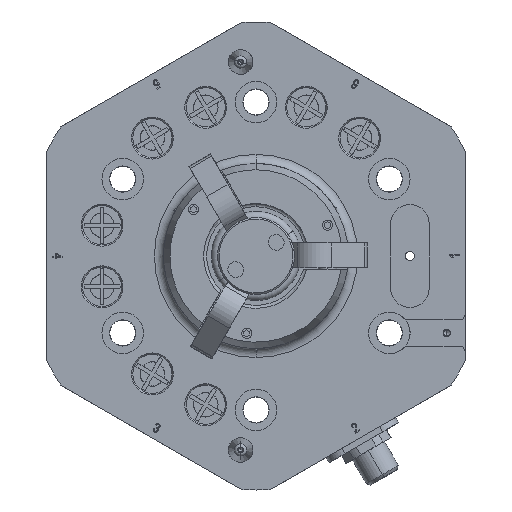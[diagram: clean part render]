
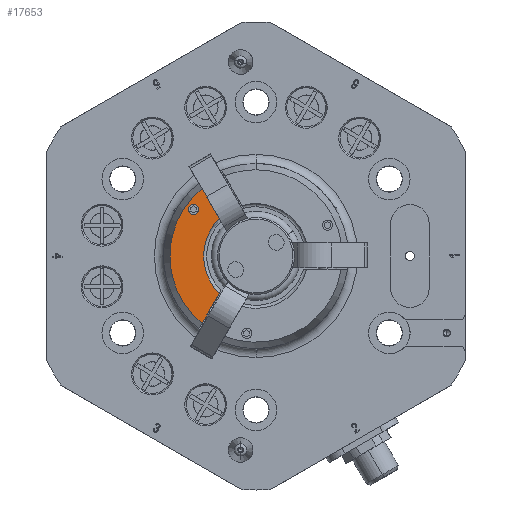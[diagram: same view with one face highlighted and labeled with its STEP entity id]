
A CAD part, front view. The second image highlights one B-rep face of the part: STEP entity #17653.
In plain terms, the highlighted planar face has unit normal (0, -1, 0).
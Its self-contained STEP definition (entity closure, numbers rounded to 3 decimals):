
#1438 = CARTESIAN_POINT ( 'NONE',  ( -20.288, -33.5, 15.133 ) ) ;
#2056 = CIRCLE ( 'NONE', #42194, 17. ) ;
#4393 = CARTESIAN_POINT ( 'NONE',  ( -11.911, -33.5, -12.13 ) ) ;
#4550 = CARTESIAN_POINT ( 'NONE',  ( -17.517, -33.5, 21.841 ) ) ;
#5474 = EDGE_LOOP ( 'NONE', ( #61293, #6830 ) ) ;
#6509 = DIRECTION ( 'NONE',  ( 0., -1., 0. ) ) ;
#6830 = ORIENTED_EDGE ( 'NONE', *, *, #44459, .F. ) ;
#7488 = VERTEX_POINT ( 'NONE', #48393 ) ;
#7881 = VERTEX_POINT ( 'NONE', #4550 ) ;
#8840 = CARTESIAN_POINT ( 'NONE',  ( 0., -33.5, 0. ) ) ;
#11899 = FACE_OUTER_BOUND ( 'NONE', #30248, .T. ) ;
#12516 = DIRECTION ( 'NONE',  ( -0.5, 0., -0.866 ) ) ;
#15493 = AXIS2_PLACEMENT_3D ( 'NONE', #1438, #23345, #45212 ) ;
#17653 = ADVANCED_FACE ( 'NONE', ( #61038, #11899 ), #33794, .T. ) ;
#18253 = CARTESIAN_POINT ( 'NONE',  ( 0., -33.5, 0. ) ) ;
#18649 = VECTOR ( 'NONE', #12516, 1000. ) ;
#18842 = EDGE_CURVE ( 'NONE', #24217, #35597, #39790, .T. ) ;
#21767 = CARTESIAN_POINT ( 'NONE',  ( -11.911, -33.5, 12.13 ) ) ;
#22584 = CARTESIAN_POINT ( 'NONE',  ( -20.288, -33.5, 13.483 ) ) ;
#23345 = DIRECTION ( 'NONE',  ( 0., -1., 0. ) ) ;
#23618 = CARTESIAN_POINT ( 'NONE',  ( -20.288, -33.5, 15.133 ) ) ;
#24217 = VERTEX_POINT ( 'NONE', #4393 ) ;
#28280 = ORIENTED_EDGE ( 'NONE', *, *, #18842, .F. ) ;
#28428 = DIRECTION ( 'NONE',  ( 0., 0., -1. ) ) ;
#29612 = VERTEX_POINT ( 'NONE', #30461 ) ;
#30248 = EDGE_LOOP ( 'NONE', ( #46313, #38852, #28280, #67444 ) ) ;
#30461 = CARTESIAN_POINT ( 'NONE',  ( -11.911, -33.5, 12.13 ) ) ;
#30767 = DIRECTION ( 'NONE',  ( 0., -1., 0. ) ) ;
#33794 = PLANE ( 'NONE',  #38539 ) ;
#35597 = VERTEX_POINT ( 'NONE', #37347 ) ;
#35723 = VERTEX_POINT ( 'NONE', #22584 ) ;
#36209 = VECTOR ( 'NONE', #43621, 1000. ) ;
#37347 = CARTESIAN_POINT ( 'NONE',  ( -17.517, -33.5, -21.841 ) ) ;
#37357 = AXIS2_PLACEMENT_3D ( 'NONE', #23618, #45503, #67355 ) ;
#37537 = AXIS2_PLACEMENT_3D ( 'NONE', #18253, #40123, #61964 ) ;
#38539 = AXIS2_PLACEMENT_3D ( 'NONE', #55625, #6509, #28428 ) ;
#38852 = ORIENTED_EDGE ( 'NONE', *, *, #67434, .T. ) ;
#39790 = LINE ( 'NONE', #61636, #18649 ) ;
#40123 = DIRECTION ( 'NONE',  ( 0., -1., 0. ) ) ;
#42194 = AXIS2_PLACEMENT_3D ( 'NONE', #8840, #30767, #52616 ) ;
#43621 = DIRECTION ( 'NONE',  ( 0.5, 0., -0.866 ) ) ;
#44459 = EDGE_CURVE ( 'NONE', #7488, #35723, #46377, .T. ) ;
#45212 = DIRECTION ( 'NONE',  ( 0., 0., -1. ) ) ;
#45503 = DIRECTION ( 'NONE',  ( 0., -1., 0. ) ) ;
#45592 = EDGE_CURVE ( 'NONE', #35723, #7488, #68209, .T. ) ;
#46313 = ORIENTED_EDGE ( 'NONE', *, *, #47767, .F. ) ;
#46377 = CIRCLE ( 'NONE', #15493, 1.65 ) ;
#47767 = EDGE_CURVE ( 'NONE', #7881, #29612, #70822, .T. ) ;
#48393 = CARTESIAN_POINT ( 'NONE',  ( -20.288, -33.5, 16.783 ) ) ;
#52616 = DIRECTION ( 'NONE',  ( 0., 0., -1. ) ) ;
#53769 = EDGE_CURVE ( 'NONE', #29612, #24217, #2056, .T. ) ;
#55625 = CARTESIAN_POINT ( 'NONE',  ( 0., -33.5, 0. ) ) ;
#61038 = FACE_BOUND ( 'NONE', #5474, .T. ) ;
#61293 = ORIENTED_EDGE ( 'NONE', *, *, #45592, .F. ) ;
#61636 = CARTESIAN_POINT ( 'NONE',  ( -11.911, -33.5, -12.13 ) ) ;
#61964 = DIRECTION ( 'NONE',  ( 0., 0., -1. ) ) ;
#67355 = DIRECTION ( 'NONE',  ( 0., 0., -1. ) ) ;
#67434 = EDGE_CURVE ( 'NONE', #7881, #35597, #68396, .T. ) ;
#67444 = ORIENTED_EDGE ( 'NONE', *, *, #53769, .F. ) ;
#68209 = CIRCLE ( 'NONE', #37357, 1.65 ) ;
#68396 = CIRCLE ( 'NONE', #37537, 27.998 ) ;
#70822 = LINE ( 'NONE', #21767, #36209 ) ;
